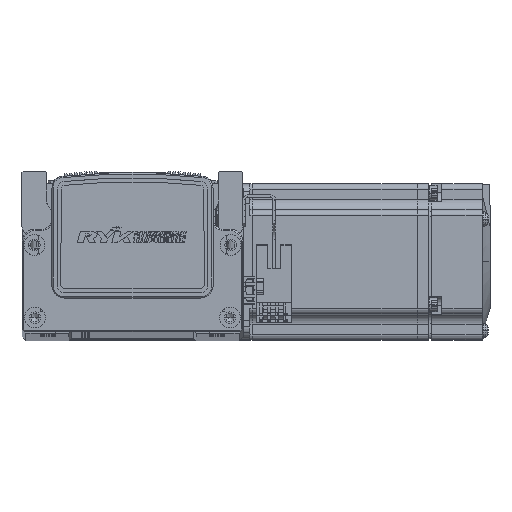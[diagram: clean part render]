
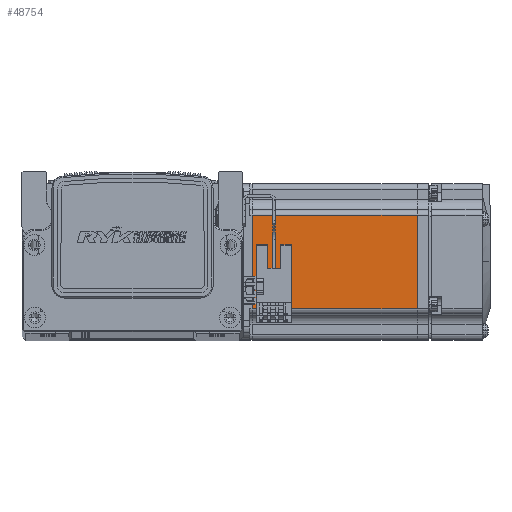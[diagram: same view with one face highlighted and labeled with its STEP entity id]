
A CAD part, top view. The second image highlights one B-rep face of the part: STEP entity #48754.
In plain terms, the highlighted planar face has unit normal (0, 0, 1) as drawn and (0, 0, -1) by its records, which use the part's own axes.
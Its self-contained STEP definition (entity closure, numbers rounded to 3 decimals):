
#2535 = CARTESIAN_POINT ( 'NONE',  ( -6.5, 18., -30. ) ) ;
#2619 = DIRECTION ( 'NONE',  ( 1., 0., 0. ) ) ;
#4395 = EDGE_CURVE ( 'NONE', #62366, #62418, #78808, .T. ) ;
#4423 = EDGE_CURVE ( 'NONE', #62370, #62366, #78867, .T. ) ;
#4465 = EDGE_CURVE ( 'NONE', #62362, #62370, #78952, .T. ) ;
#4488 = EDGE_CURVE ( 'NONE', #62418, #62362, #78939, .T. ) ;
#8919 = CARTESIAN_POINT ( 'NONE',  ( -7.75, 25., -30. ) ) ;
#8931 = DIRECTION ( 'NONE',  ( 0., -1., 0. ) ) ;
#9728 = CARTESIAN_POINT ( 'NONE',  ( -6.5, -18., -30. ) ) ;
#9742 = DIRECTION ( 'NONE',  ( -1., 0., 0. ) ) ;
#29998 = ORIENTED_EDGE ( 'NONE', *, *, #4488, .T. ) ;
#30010 = ORIENTED_EDGE ( 'NONE', *, *, #4465, .T. ) ;
#30012 = ORIENTED_EDGE ( 'NONE', *, *, #4395, .T. ) ;
#30083 = ORIENTED_EDGE ( 'NONE', *, *, #4423, .T. ) ;
#48754 = ADVANCED_FACE ( 'NONE', ( #64344 ), #58664, .T. ) ;
#58664 = PLANE ( 'NONE',  #74031 ) ;
#58665 = CARTESIAN_POINT ( 'NONE',  ( -6.5, 25., -30. ) ) ;
#58684 = DIRECTION ( 'NONE',  ( 0., 0., -1. ) ) ;
#58699 = DIRECTION ( 'NONE',  ( -1., 0., 0. ) ) ;
#59596 = EDGE_LOOP ( 'NONE', ( #30083, #30012, #29998, #30010 ) ) ;
#62362 = VERTEX_POINT ( 'NONE', #66532 ) ;
#62366 = VERTEX_POINT ( 'NONE', #66553 ) ;
#62370 = VERTEX_POINT ( 'NONE', #66538 ) ;
#62418 = VERTEX_POINT ( 'NONE', #66625 ) ;
#64344 = FACE_OUTER_BOUND ( 'NONE', #59596, .T. ) ;
#66532 = CARTESIAN_POINT ( 'NONE',  ( -70.95, 18., -30. ) ) ;
#66538 = CARTESIAN_POINT ( 'NONE',  ( -7.75, 18., -30. ) ) ;
#66553 = CARTESIAN_POINT ( 'NONE',  ( -7.75, -18., -30. ) ) ;
#66625 = CARTESIAN_POINT ( 'NONE',  ( -70.95, -18., -30. ) ) ;
#74031 = AXIS2_PLACEMENT_3D ( 'NONE', #58665, #58684, #58699 ) ;
#74675 = CARTESIAN_POINT ( 'NONE',  ( -70.95, 25., -30. ) ) ;
#74688 = DIRECTION ( 'NONE',  ( 0., 1., 0. ) ) ;
#78808 = LINE ( 'NONE', #9728, #78834 ) ;
#78834 = VECTOR ( 'NONE', #9742, 1000. ) ;
#78867 = LINE ( 'NONE', #8919, #78881 ) ;
#78881 = VECTOR ( 'NONE', #8931, 1000. ) ;
#78939 = LINE ( 'NONE', #74675, #78940 ) ;
#78940 = VECTOR ( 'NONE', #74688, 1000. ) ;
#78952 = LINE ( 'NONE', #2535, #78957 ) ;
#78957 = VECTOR ( 'NONE', #2619, 1000. ) ;
